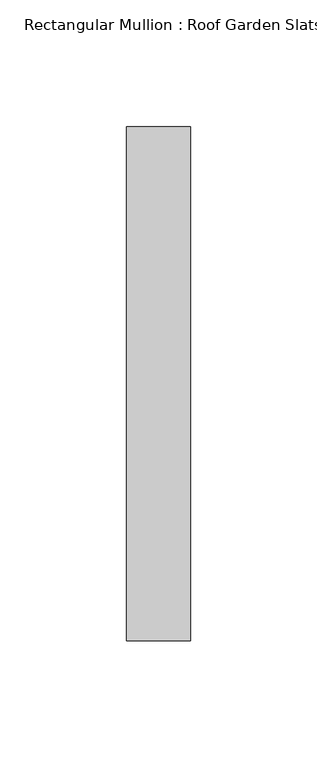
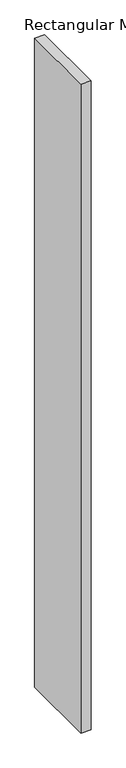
"""IFC4 building model written with IfcOpenShell, lengths in millimetres: member geometry, Rectangular Mullion : Roof Garden Slats."""

from ifc_helpers import new_model, si_unit, frame, origin, place, context, project, spatial, polyline, outline, extrude, source, transform, mapped, element, save


def rectangular_mullion_roof_garden_slats_7bbd4aec(model_context):
    return source(origin(), model_context, "Body", "SweptSolid", [
        extrude(outline(polyline([(12.7, 139.7), (12.7, -63.5), (-12.7, -63.5), (-12.7, 139.7), (12.7, 139.7)])), frame((0.0, 0.0, -1735.6626453), z_axis=(0.0, 0.0, 1.0), x_axis=(1.0, 0.0, 0.0)), (0.0, 0.0, 1.0), 1735.6626453),
    ])


if __name__ == "__main__":
    model = new_model("IFC4")
    model_context = context("Model", 3, world=origin())
    ifc_project = project(units=[si_unit("LENGTHUNIT", "METRE", prefix="MILLI")], contexts=[model_context])
    site = spatial("IfcSite", under=ifc_project)
    building = spatial("IfcBuilding", under=site)
    placement = place(None, origin())
    rectangular_mullion_roof_garden_slats_shape = rectangular_mullion_roof_garden_slats_7bbd4aec(model_context)
    element("IfcMember", 1, ObjectType="Rectangular Mullion : Roof Garden Slats", at=placement, inside=building, context=model_context, shape_type="MappedRepresentation", body=[
        mapped(rectangular_mullion_roof_garden_slats_shape, transform((0.0, 0.0, 0.0), x_axis=(1.0, 0.0, 0.0), y_axis=(0.0, 1.0, 0.0), z_axis=(0.0, 0.0, 1.0))),
    ])
    save(model, "model.ifc")
